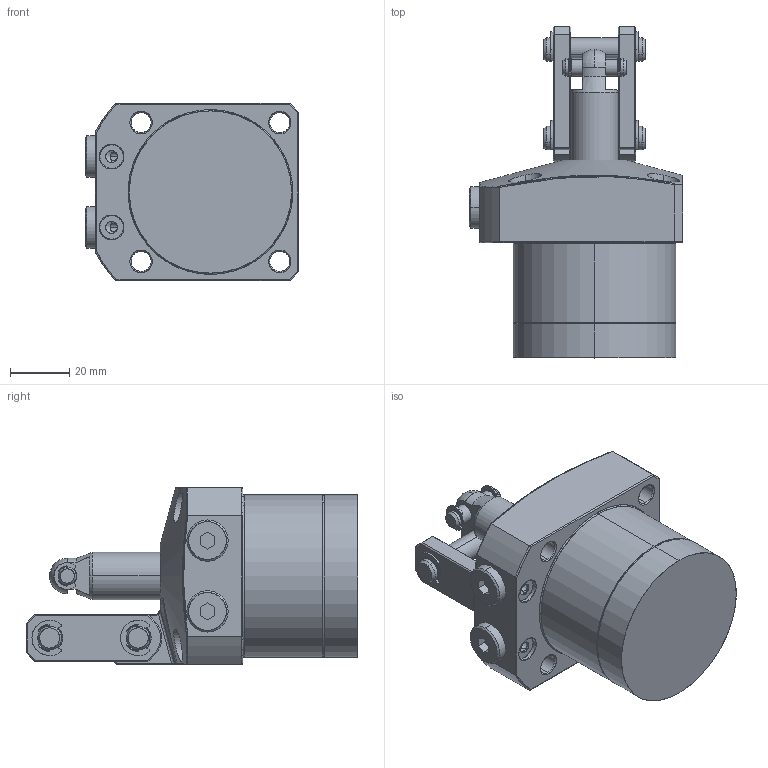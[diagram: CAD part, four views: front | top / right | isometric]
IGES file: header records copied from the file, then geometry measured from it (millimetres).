
Start section: SolidWorks IGES file using analytic representation for surfaces
Global section: file name: D:\abhilash\nijil\cylinder\LKA Series\con v lka\lka550\lk55cl\55CL PT\0402-0553.IGS; native system: SolidWorks 2010; preprocessor: SolidWorks 2010; author: nidheesh; date: 130730.102743; units: millimetre
Bounding box: 72.5 x 112.5 x 60 mm (x, y, z)
Surface area: 34477 mm2 (no closed solid volume)
Topology: 0 solids, 0 shells, 406 faces, 5171 edges, 5170 vertices
Faces by surface type: bspline 215, revolution 191
